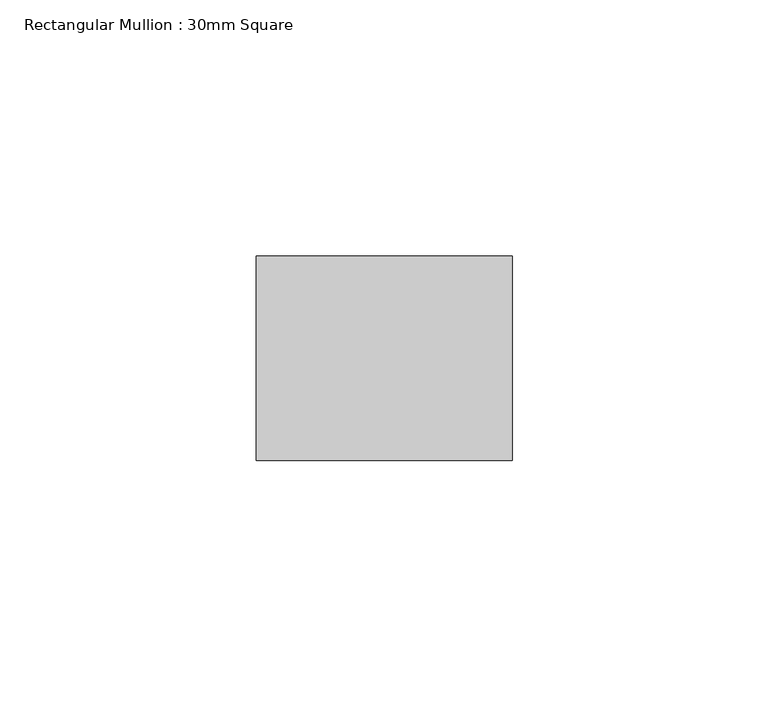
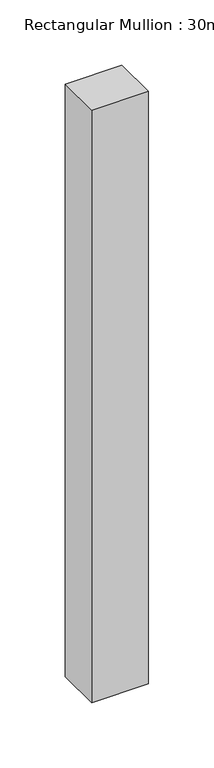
"""IFC4 building model written with IfcOpenShell, lengths in millimetres: member geometry, Rectangular Mullion : 30mm Square."""

import ifcopenshell
import ifcopenshell.guid

model = None  # the IFC model being written
_history = None  # IfcOwnerHistory: only IFC2X3 demands one
_inside = {}  # id of a spatial element -> (the spatial element, [elements in it])
_under = {}  # id of a project, library or spatial element -> (it, [spatial elements below it])
_declared = {}  # id of a project -> (the project, [libraries it declares])
_typed = {}  # id of a type object -> (the type object, [elements of that type])
_made_of = {}  # id of a material, layer set ... -> (it, [elements and type objects made of it])


def new_model(schema):
    """Start an empty IFC model of exactly this schema.

    Asked for "IFC4X3", IfcOpenShell would pick the latest addendum, in which some entities
    have other attributes; the version numbers below select the first issue.
    IFC2X3 requires an IfcOwnerHistory on every rooted entity: one is made here for all.
    """
    global model, _history
    if schema == "IFC4X3":
        model = ifcopenshell.file(schema_version=(4, 3, 0, 0))
    else:
        model = ifcopenshell.file(schema=schema)
    _inside.clear()
    _under.clear()
    _declared.clear()
    _typed.clear()
    _made_of.clear()
    _history = None
    if model.schema == "IFC2X3":
        org = make("IfcOrganization", Name="unknown")
        user = make(
            "IfcPersonAndOrganization",
            ThePerson=make("IfcPerson", FamilyName="unknown"),
            TheOrganization=org,
        )
        app = make(
            "IfcApplication",
            ApplicationDeveloper=org,
            Version="unknown",
            ApplicationFullName="unknown",
            ApplicationIdentifier="unknown",
        )
        _history = make(
            "IfcOwnerHistory",
            OwningUser=user,
            OwningApplication=app,
            ChangeAction="ADDED",
            CreationDate=0,
        )
    return model


def make(cls, **values):
    """One entity of the class cls with the attributes given. An attribute that is None is left unset."""
    return model.create_entity(
        cls, **{name: value for name, value in values.items() if value is not None}
    )


def rooted(cls, **values):
    """An entity with a GlobalId (a new one), such as an element, a storey or a relation."""
    return make(cls, GlobalId=ifcopenshell.guid.new(), OwnerHistory=_history, **values)


def si_unit(unit_type, name, prefix=None):
    """IfcSIUnit, for example si_unit("LENGTHUNIT", "METRE", prefix="MILLI")."""
    return make("IfcSIUnit", UnitType=unit_type, Prefix=prefix, Name=name)


def assignment(units):
    """IfcUnitAssignment: the units of a project."""
    return None if units is None else make("IfcUnitAssignment", Units=units)


def point(xyz):
    """IfcCartesianPoint."""
    return None if xyz is None else make("IfcCartesianPoint", Coordinates=xyz)


def direction(xyz):
    """IfcDirection."""
    return None if xyz is None else make("IfcDirection", DirectionRatios=xyz)


def frame(location, z_axis=None, x_axis=None):
    """IfcAxis2Placement3D, a coordinate frame: its origin and axes. An axis left out is left unset."""
    return make(
        "IfcAxis2Placement3D",
        Location=point(location),
        Axis=direction(z_axis),
        RefDirection=direction(x_axis),
    )


def origin():
    """The frame at (0, 0, 0) with its axes left unset."""
    return frame((0.0, 0.0, 0.0))


def place(relative_to, where):
    """IfcLocalPlacement: puts the frame where relative to a parent placement (None: the world)."""
    return make(
        "IfcLocalPlacement", PlacementRelTo=relative_to, RelativePlacement=where
    )


def context(
    kind, dimensions, precision=None, world=None, true_north=None, identifier=None
):
    """IfcGeometricRepresentationContext, for example the 3D "Model" context."""
    return make(
        "IfcGeometricRepresentationContext",
        ContextIdentifier=identifier,
        ContextType=kind,
        CoordinateSpaceDimension=dimensions,
        Precision=precision,
        WorldCoordinateSystem=world,
        TrueNorth=true_north,
    )


def project(units=None, contexts=None):
    """IfcProject with its units and contexts."""
    return rooted(
        "IfcProject",
        Name="project",
        RepresentationContexts=contexts,
        UnitsInContext=assignment(units),
    )


def spatial(cls, under=None, at=None, **own):
    """A site, building, storey or space (cls), placed at a placement, below another one or the project."""
    s = rooted(cls, ObjectPlacement=at, **own)
    if under is not None:
        _under.setdefault(under.id(), (under, []))[1].append(s)
    return s


def polyline(points):
    """IfcPolyline through the points."""
    return make("IfcPolyline", Points=[point(p) for p in points])


def outline(outer, holes=None, kind="AREA"):
    """IfcArbitraryClosedProfileDef: a profile drawn as a closed curve; with holes, ...WithVoids."""
    if holes is None:
        return make("IfcArbitraryClosedProfileDef", ProfileType=kind, OuterCurve=outer)
    return make(
        "IfcArbitraryProfileDefWithVoids",
        ProfileType=kind,
        OuterCurve=outer,
        InnerCurves=holes,
    )


def extrude(swept, where, along, depth):
    """IfcExtrudedAreaSolid: the profile swept, set in the frame where, extruded along a direction by depth."""
    return make(
        "IfcExtrudedAreaSolid",
        SweptArea=swept,
        Position=where,
        ExtrudedDirection=direction(along),
        Depth=depth,
    )


def shape(context_of_items, identifier, shape_type, items):
    """IfcShapeRepresentation: the items that make up one representation, for example the "Body"."""
    return make(
        "IfcShapeRepresentation",
        ContextOfItems=context_of_items,
        RepresentationIdentifier=identifier,
        RepresentationType=shape_type,
        Items=items,
    )


def source(mapping_origin, context_of_items, identifier, shape_type, items):
    """IfcRepresentationMap: a shape defined once, which mapped items show again and again."""
    return make(
        "IfcRepresentationMap",
        MappingOrigin=mapping_origin,
        MappedRepresentation=shape(context_of_items, identifier, shape_type, items),
    )


def transform(
    local_origin,
    x_axis=None,
    y_axis=None,
    z_axis=None,
    scale=None,
    scale2=None,
    scale3=None,
    uniform=True,
):
    """IfcCartesianTransformationOperator3D, or its non-uniform kind. x_axis, y_axis, z_axis: its Axis1, 2, 3."""
    if uniform:
        return make(
            "IfcCartesianTransformationOperator3D",
            Axis1=direction(x_axis),
            Axis2=direction(y_axis),
            LocalOrigin=point(local_origin),
            Scale=scale,
            Axis3=direction(z_axis),
        )
    return make(
        "IfcCartesianTransformationOperator3DnonUniform",
        Axis1=direction(x_axis),
        Axis2=direction(y_axis),
        LocalOrigin=point(local_origin),
        Scale=scale,
        Axis3=direction(z_axis),
        Scale2=scale2,
        Scale3=scale3,
    )


def mapped(mapping_source, mapping_target):
    """IfcMappedItem: shows the shape of a source again, moved by a transform."""
    return make(
        "IfcMappedItem", MappingSource=mapping_source, MappingTarget=mapping_target
    )


def made_of(thing, what):
    """Note that an element or type object is made of a material, layer set ...; save() writes the relation."""
    if what is not None:
        _made_of.setdefault(what.id(), (what, []))[1].append(thing)
    return thing


def element(
    cls,
    number,
    at=None,
    inside=None,
    cuts=None,
    type_object=None,
    material=None,
    context=None,
    identifier="Body",
    shape_type=None,
    held_by="IfcProductDefinitionShape",
    body=None,
    shapes=None,
    **own,
):
    """One element of the class cls, such as IfcWall. Its Tag is "e" and its number.

    at: its placement. inside: the storey or other place that contains it. cuts: it is an
    opening in that element (IfcRelVoidsElement). A single representation is given by context,
    identifier, shape_type and body (its items); several are given by shapes. held_by: the class
    of the entity that holds the representations. save() writes the other relations.
    """
    e = rooted(cls, Tag="e%d" % number, ObjectPlacement=at, **own)
    if body is not None:
        shapes = [shape(context, identifier, shape_type, body)]
    if shapes is not None:
        e.Representation = make(held_by, Representations=shapes)
    if inside is not None:
        _inside.setdefault(inside.id(), (inside, []))[1].append(e)
    if cuts is not None:
        rooted(
            "IfcRelVoidsElement", RelatingBuildingElement=cuts, RelatedOpeningElement=e
        )
    if type_object is not None:
        _typed.setdefault(type_object.id(), (type_object, []))[1].append(e)
    return made_of(e, material)


def aggregate(whole, parts):
    """IfcRelAggregates: a whole, such as a stair, and the parts it consists of."""
    return rooted("IfcRelAggregates", RelatingObject=whole, RelatedObjects=parts)


def save(model, path):
    """Write the relations noted so far, then the file.

    IfcRelAggregates (storeys below a building ...), IfcRelContainedInSpatialStructure (elements
    in a storey), IfcRelDefinesByType, IfcRelAssociatesMaterial and IfcRelDeclares: one each for
    every whole, place, type object, material and project.
    """
    for whole, parts in _under.values():
        aggregate(whole, parts)
    for where, things in _inside.values():
        rooted(
            "IfcRelContainedInSpatialStructure",
            RelatedElements=things,
            RelatingStructure=where,
        )
    for kind, things in _typed.values():
        rooted("IfcRelDefinesByType", RelatedObjects=things, RelatingType=kind)
    for what, things in _made_of.values():
        rooted("IfcRelAssociatesMaterial", RelatedObjects=things, RelatingMaterial=what)
    for by, libraries in _declared.values():
        rooted("IfcRelDeclares", RelatingContext=by, RelatedDefinitions=libraries)
    model.write(path)


def rectangular_mullion_30mm_square_e6c345db(model_context):
    return source(origin(), model_context, "Body", "SweptSolid", [
        extrude(outline(polyline([(25.0, 20.0), (25.0, -20.0), (-25.0, -20.0), (-25.0, 20.0), (25.0, 20.0)])), frame((0.0, 0.0, -553.2555545), z_axis=(0.0, 0.0, 1.0), x_axis=(1.0, 0.0, 0.0)), (0.0, 0.0, 1.0), 553.2555545),
    ])


if __name__ == "__main__":
    model = new_model("IFC4")
    model_context = context("Model", 3, world=origin())
    ifc_project = project(units=[si_unit("LENGTHUNIT", "METRE", prefix="MILLI")], contexts=[model_context])
    site = spatial("IfcSite", under=ifc_project)
    building = spatial("IfcBuilding", under=site)
    placement = place(None, origin())
    rectangular_mullion_30mm_square_shape = rectangular_mullion_30mm_square_e6c345db(model_context)
    element("IfcMember", 1, ObjectType="Rectangular Mullion : 30mm Square", at=placement, inside=building, context=model_context, shape_type="MappedRepresentation", body=[
        mapped(rectangular_mullion_30mm_square_shape, transform((0.0, 0.0, 0.0), x_axis=(1.0, 0.0, 0.0), y_axis=(0.0, 1.0, 0.0), z_axis=(0.0, 0.0, 1.0))),
    ])
    save(model, "model.ifc")
